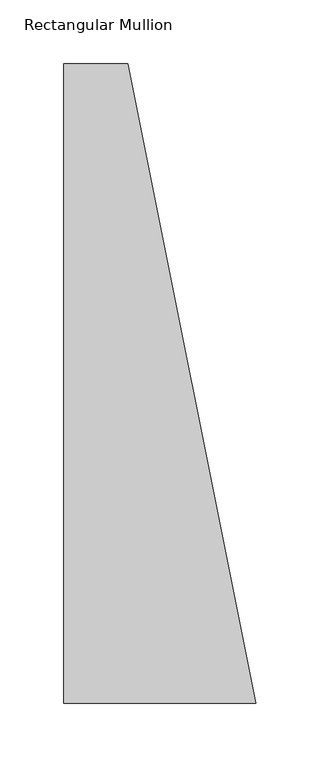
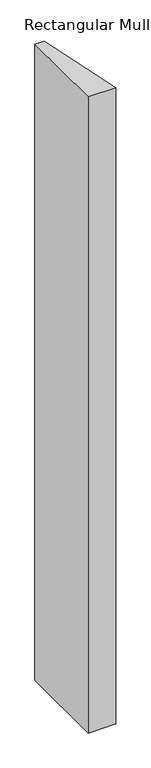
"""IFC4 building model written with IfcOpenShell, lengths in millimetres: member geometry, Rectangular Mullion : 500(350+150)x150x50mm."""

from ifc_helpers import new_model, si_unit, frame, origin, place, context, project, spatial, polyline, outline, extrude, source, transform, mapped, element, save


def rectangular_mullion_2fe314a3(model_context):
    return source(origin(), model_context, "Body", "SweptSolid", [
        extrude(outline(polyline([(-150.0, 150.0), (-100.0, 150.0), (0.0, -350.0), (-150.0, -350.0), (-150.0, 150.0)])), frame((0.0, 0.0, -3650.0), z_axis=(0.0, 0.0, 1.0), x_axis=(1.0, 0.0, 0.0)), (0.0, 0.0, 1.0), 3650.0),
    ])


if __name__ == "__main__":
    model = new_model("IFC4")
    model_context = context("Model", 3, world=origin())
    ifc_project = project(units=[si_unit("LENGTHUNIT", "METRE", prefix="MILLI")], contexts=[model_context])
    site = spatial("IfcSite", under=ifc_project)
    building = spatial("IfcBuilding", under=site)
    placement = place(None, origin())
    rectangular_mullion_shape = rectangular_mullion_2fe314a3(model_context)
    element("IfcMember", 1, ObjectType="Rectangular Mullion : 500(350+150)x150x50mm", at=placement, inside=building, context=model_context, shape_type="MappedRepresentation", body=[
        mapped(rectangular_mullion_shape, transform((0.0, 0.0, 0.0), x_axis=(1.0, 0.0, 0.0), y_axis=(0.0, 1.0, 0.0), z_axis=(0.0, 0.0, 1.0))),
    ])
    save(model, "model.ifc")
